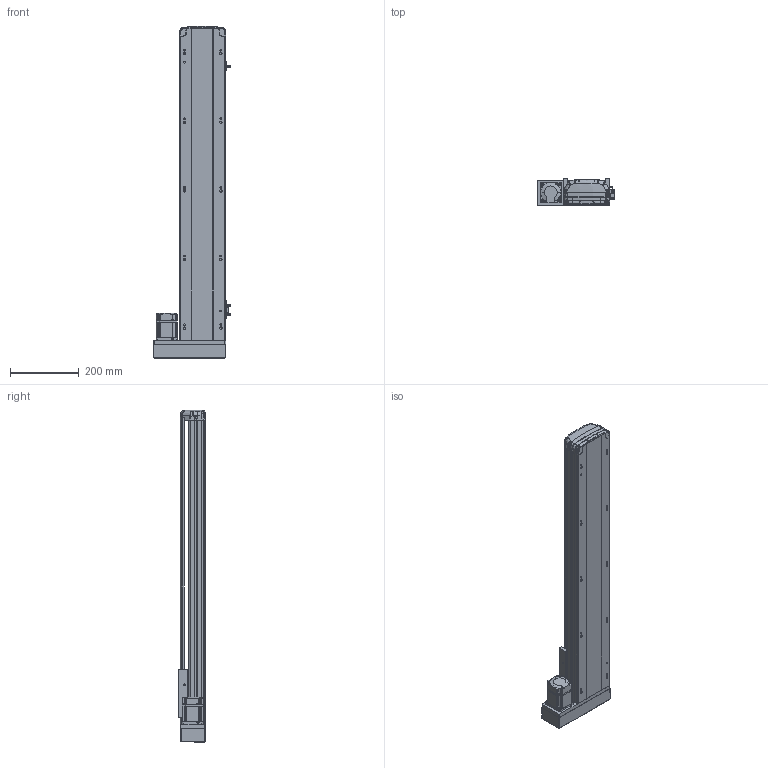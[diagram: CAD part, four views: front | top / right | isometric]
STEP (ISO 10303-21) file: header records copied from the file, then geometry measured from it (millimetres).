
FILE_DESCRIPTION (( 'STEP AP214' ), '1' );
FILE_NAME ('RTH14-XX-700-L-M20-C4.STEP', '2025-10-25T02:39:07', ( 'Microsoft' ), ( 'Microsoft' ), 'SwSTEP 2.0', 'SolidWorks 2018', '' );
FILE_SCHEMA (( 'AUTOMOTIVE_DESIGN' ));
Length unit declared in the file: millimetre
Products named in the file (10): N_RTH13-L-018 裔赽^RTH14-XX-XX-L-M20-C4; RTH14-XX-700-L-M20-C4; N_MSMD022P1AA_200W^RTH14-XX-XX-L-M20-C4; N_RTH13-L-012感应片（外置）^RTH14-XX-XX-L-M20-C4; N_RTH14-M-011P菁釱^RTH14-XX-XX-L-M20-C4; N_RTH14-M-007P奻裔^RTH14-XX-XX-L-M20-C4; N_RTH14-GY-001P^RTH14-XX-XX-L-M20-C4; N_RTH14-R-004-SFSR16賑釱^RTH14-XX-XX-L-M20-C4; N_RTH13-L-008-P20 萇儂啣酘蛌殏^RTH14-XX-XX-L-M20-C4; N_OMRON EE-SX672 传感器^RTH14-XX-XX-L-M20-C4
Assembly tree (11 placements, depth 2):
  RTH14-XX-700-L-M20-C4
    N_RTH14-M-011P菁釱^RTH14-XX-XX-L-M20-C4
    N_RTH14-M-007P奻裔^RTH14-XX-XX-L-M20-C4
    N_MSMD022P1AA_200W^RTH14-XX-XX-L-M20-C4
    N_RTH13-L-008-P20 萇儂啣酘蛌殏^RTH14-XX-XX-L-M20-C4
    N_RTH13-L-018 裔赽^RTH14-XX-XX-L-M20-C4
    N_RTH13-L-012感应片（外置）^RTH14-XX-XX-L-M20-C4
    N_OMRON EE-SX672 传感器^RTH14-XX-XX-L-M20-C4  x3
    N_RTH14-GY-001P^RTH14-XX-XX-L-M20-C4
    N_RTH14-R-004-SFSR16賑釱^RTH14-XX-XX-L-M20-C4
Bounding box: 224 x 78.03 x 967.37 mm (x, y, z)
Volume: 4332514.4 mm3; surface area: 1007740.8 mm2
Topology: 11 solids, 11 shells, 1868 faces, 5219 edges, 3418 vertices
Faces by surface type: plane 989, cylinder 485, bspline 345, cone 45, torus 4
Entity records: 56981 total; most frequent: CARTESIAN_POINT 22997, ORIENTED_EDGE 7506, DIRECTION 6018, EDGE_CURVE 3753, VERTEX_POINT 2454, LINE 2154, VECTOR 2154, AXIS2_PLACEMENT_3D 1932
